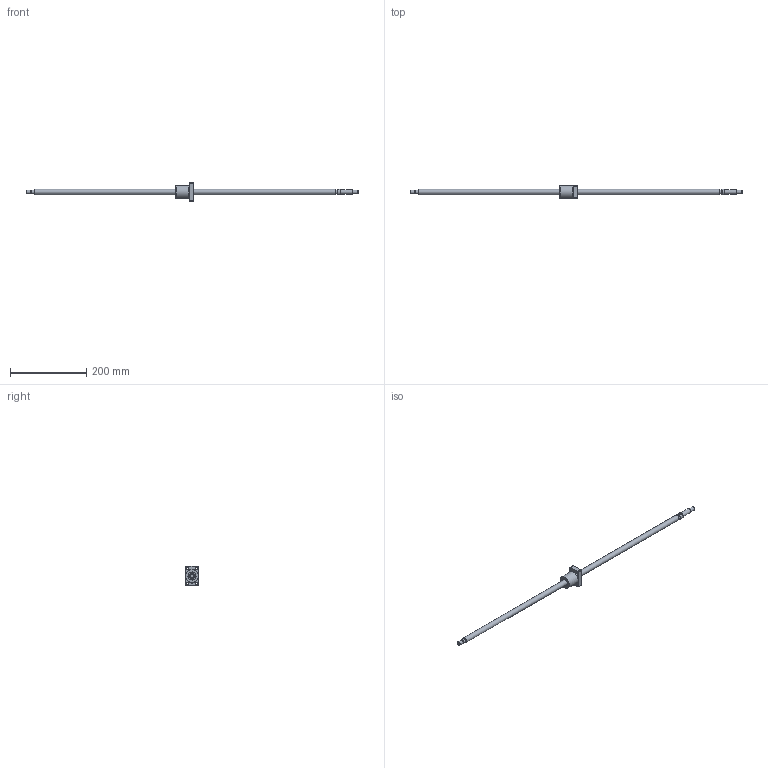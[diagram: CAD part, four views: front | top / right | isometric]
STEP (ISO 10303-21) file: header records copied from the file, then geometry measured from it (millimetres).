
FILE_DESCRIPTION(/* description */ ('STEP AP203'),/* implementation_level */ '2;1');
FILE_NAME(/* name */ 'BNK1408-2.5RRG0+871LC5Y(417.50)',/* time_stamp */ '2024-07-09T09:18:09+02:00',/* author */ ('License CC BY-ND 4.0'),/* organization */ ('CADENAS'),/* preprocessor_version */ 'ST-DEVELOPER v19.3',/* originating_system */ 'PARTsolutions',/* authorisation */ ' ');
FILE_SCHEMA (('CONFIG_CONTROL_DESIGN'));
Length unit declared in the file: millimetre
Products named in the file (3): BNK1408-2.5RRG0+871LC5Y(417.50); BNK 1408-2.5RRG0+871LC5Y Shaft; BNK 1408-2.5RRG0+871LC5YRR0 Nut
Assembly tree (2 placements, depth 2):
  BNK1408-2.5RRG0+871LC5Y(417.50)
    BNK 1408-2.5RRG0+871LC5Y Shaft
    BNK 1408-2.5RRG0+871LC5YRR0 Nut
Bounding box: 871 x 34 x 50 mm (x, y, z)
Volume: 168669.7 mm3; surface area: 49954.9 mm2
Topology: 2 solids, 2 shells, 74 faces, 159 edges, 102 vertices
Faces by surface type: plane 28, cylinder 27, cone 17, torus 2
Full cylindrical faces by diameter (mm): 4.917 x2, 5.5 x4, 9.5 x4, 9.6 x1, 10 x3, 12 x2, 14 x2, 15 x1, 21 x2, 33.4 x1, 34 x1
Entity records: 1940 total; most frequent: CARTESIAN_POINT 349, DIRECTION 336, ORIENTED_EDGE 242, AXIS2_PLACEMENT_3D 155, FACE_BOUND 134, EDGE_LOOP 133, EDGE_CURVE 121, VERTEX_POINT 99
